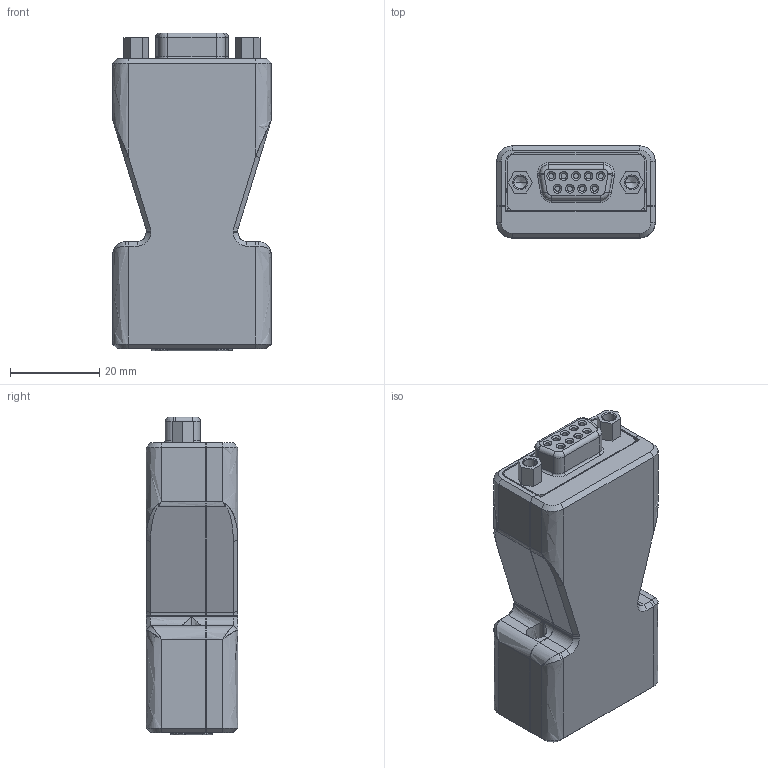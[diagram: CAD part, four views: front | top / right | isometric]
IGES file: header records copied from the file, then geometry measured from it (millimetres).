
Start section:  PTC IGES file: cu_shdb9m-db9f-shunt.igs
Global section: file name: cu_shdb9m-db9f-shunt.igs; native system: Creo Parametric by PTC Inc.; preprocessor: 2017480; author: dkendric; organization: Unknown; date: 20181211.095953; units: millimetre
Bounding box: 35.5 x 20.6 x 71.25 mm (x, y, z)
Surface area: 21178 mm2 (no closed solid volume)
Topology: 0 solids, 0 shells, 1029 faces, 5234 edges, 5218 vertices
Faces by surface type: bspline 527, revolution 502
